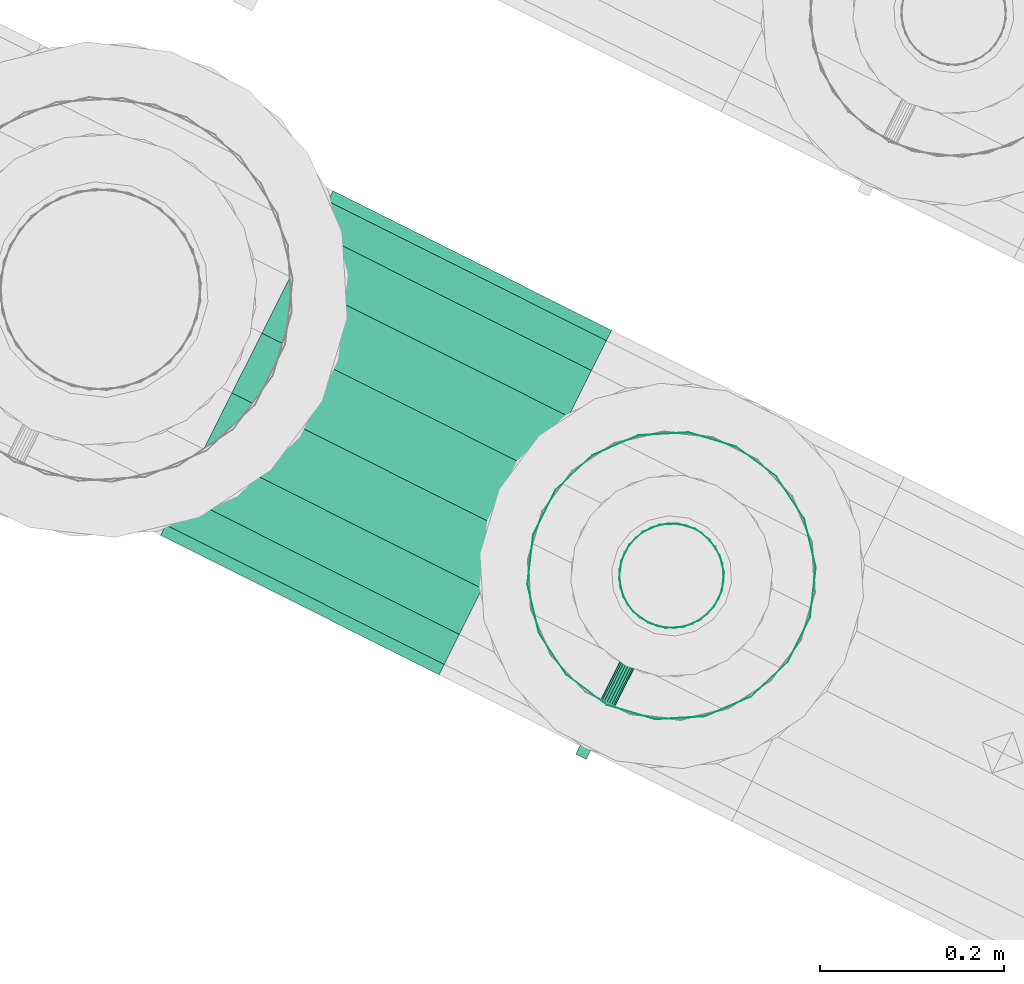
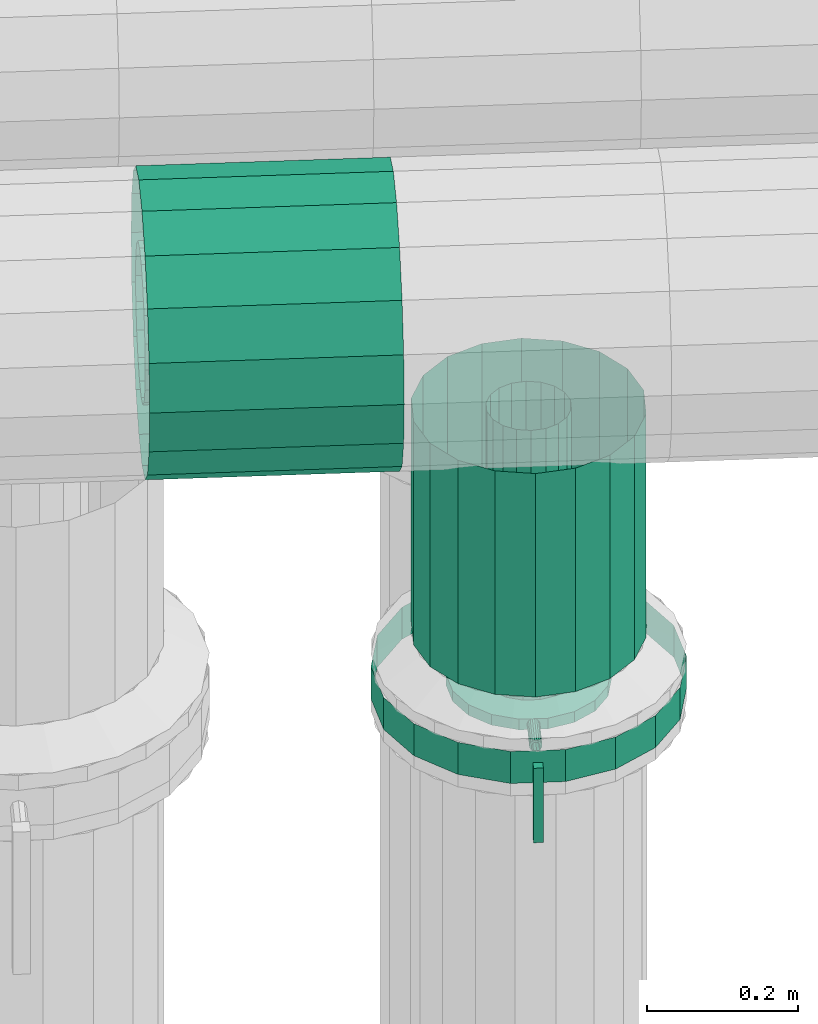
# One storey, part 121 of 152: 2 flow segments, 1 flow controller.
"""IFC2X3 building model written with IfcOpenShell, lengths in metres."""

from ifc_helpers import new_model, si_unit, derived_unit, direction, frame, origin, place, context, subcontext, project, spatial, face_set, surface_model, source, transform, mapped, material, type_object, type_shapes, element, save


model = new_model("IFC2X3")

# Units and contexts
model_context = context("Model", 3, precision=5.2338327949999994e-05, world=origin(), true_north=direction((0.0, 1.0)))
body_context = subcontext(model_context, "Body", "Model", "MODEL_VIEW")
ifc_project = project(units=[si_unit("LENGTHUNIT", "METRE"), si_unit("AREAUNIT", "SQUARE_METRE"), si_unit("VOLUMEUNIT", "CUBIC_METRE"), si_unit("MASSUNIT", "GRAM", prefix="KILO"), si_unit("PLANEANGLEUNIT", "RADIAN"), derived_unit("THERMALTRANSMITTANCEUNIT", [(si_unit("MASSUNIT", "GRAM", prefix="KILO"), 1), (si_unit("THERMODYNAMICTEMPERATUREUNIT", "KELVIN"), -1), (si_unit("TIMEUNIT", "SECOND"), -3)])], contexts=[model_context])

# Site, building, storey
site_placement = place(None, frame((0.0, 0.0, 0.0), z_axis=(0.0, 0.0, 1.0), x_axis=(0.8939966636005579, -0.4480736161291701, 0.0)))
site = spatial("IfcSite", under=ifc_project, at=site_placement, Name="Default", CompositionType="ELEMENT")
building_placement = place(site_placement, origin())
building = spatial("IfcBuilding", under=site, at=building_placement, CompositionType="ELEMENT")
storey_placement = place(building_placement, frame((0.0, 0.0, 2.7499999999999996)))
storey = spatial("IfcBuildingStorey", under=building, at=storey_placement, Name="1. Obergeschoss", CompositionType="ELEMENT", Elevation=2.7499999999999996)

# Flow segment
ifc_material = material(Name="IfcSurfaceStyle #9317")
distribution_element_type_1 = type_object("IfcDistributionElementType", Name="Stahlrohr nach DIN 2448 225771:Stahlrohr nach DIN 2448 225771", material=ifc_material)
shared_shape_1 = source(origin(), body_context, "Body", "SurfaceModel", [
    surface_model("IfcFaceBasedSurfaceModel", [(7.10461832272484, 7.217658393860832, 5.553028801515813), (7.10461832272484, 7.224265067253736, 5.59049710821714), (6.765814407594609, 7.224265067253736, 5.59049710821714), (6.765814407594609, 7.217658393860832, 5.553028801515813), (7.10461832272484, 7.243288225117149, 5.623446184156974), (6.765814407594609, 7.243288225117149, 5.623446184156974), (7.10461832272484, 7.272433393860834, 5.6479018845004), (6.765814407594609, 7.272433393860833, 5.647901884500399), (7.10461832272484, 7.30818523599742, 5.660914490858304), (6.765814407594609, 7.308185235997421, 5.660914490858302), (7.10461832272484, 7.346231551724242, 5.660914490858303), (6.765814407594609, 7.346231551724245, 5.660914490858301), (7.10461832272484, 7.381983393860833, 5.6479018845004), (6.765814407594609, 7.381983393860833, 5.6479018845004), (7.10461832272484, 7.411128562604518, 5.623446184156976), (6.765814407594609, 7.411128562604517, 5.623446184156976), (7.10461832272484, 7.430151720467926, 5.590497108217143), (6.765814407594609, 7.4301517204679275, 5.590497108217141), (7.10461832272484, 7.436758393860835, 5.553028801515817), (6.765814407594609, 7.436758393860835, 5.553028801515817), (7.10461832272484, 7.430151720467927, 5.51556049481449), (6.765814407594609, 7.430151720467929, 5.515560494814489), (7.10461832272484, 7.411128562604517, 5.482611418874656), (6.765814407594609, 7.411128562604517, 5.482611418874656), (7.10461832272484, 7.381983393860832, 5.458155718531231), (6.765814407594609, 7.381983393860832, 5.4581557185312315), (7.10461832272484, 7.3462315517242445, 5.4451431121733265), (6.765814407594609, 7.346231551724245, 5.4451431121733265), (7.10461832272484, 7.308185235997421, 5.445143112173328), (6.765814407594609, 7.3081852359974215, 5.445143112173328), (7.10461832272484, 7.272433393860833, 5.45815571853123), (6.765814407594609, 7.272433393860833, 5.45815571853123), (7.10461832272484, 7.243288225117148, 5.4826114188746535), (6.765814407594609, 7.2432882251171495, 5.482611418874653), (7.10461832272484, 7.224265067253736, 5.515560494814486), (6.765814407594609, 7.224265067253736, 5.515560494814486), (7.10461832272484, 7.117658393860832, 5.553028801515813), (7.10461832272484, 7.130295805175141, 5.624699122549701), (6.765814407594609, 7.130295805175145, 5.624699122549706), (6.765814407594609, 7.117658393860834, 5.553028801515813), (7.10461832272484, 7.166683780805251, 5.687724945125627), (6.765814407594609, 7.166683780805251, 5.687724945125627), (7.10461832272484, 7.222433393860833, 5.734504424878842), (6.765814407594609, 7.222433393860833, 5.734504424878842), (7.10461832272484, 7.290820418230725, 5.759395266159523), (6.765814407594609, 7.290820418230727, 5.7593952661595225), (7.10461832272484, 7.363596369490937, 5.759395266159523), (6.765814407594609, 7.363596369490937, 5.759395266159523), (7.10461832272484, 7.43198339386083, 5.734504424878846), (6.765814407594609, 7.431983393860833, 5.734504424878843), (7.10461832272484, 7.487733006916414, 5.687724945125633), (6.765814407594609, 7.487733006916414, 5.687724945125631), (7.10461832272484, 7.524120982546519, 5.62469912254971), (6.765814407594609, 7.5241209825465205, 5.6246991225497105), (7.10461832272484, 7.536758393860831, 5.553028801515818), (6.765814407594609, 7.5367583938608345, 5.553028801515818), (7.10461832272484, 7.5241209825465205, 5.481358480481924), (6.765814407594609, 7.5241209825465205, 5.481358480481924), (7.10461832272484, 7.487733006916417, 5.418332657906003), (6.765814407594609, 7.487733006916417, 5.418332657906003), (7.10461832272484, 7.431983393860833, 5.371553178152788), (6.765814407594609, 7.4319833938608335, 5.371553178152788), (7.10461832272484, 7.36359636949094, 5.3466623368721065), (6.765814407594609, 7.36359636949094, 5.3466623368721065), (7.10461832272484, 7.29082041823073, 5.346662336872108), (6.765814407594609, 7.290820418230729, 5.346662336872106), (7.10461832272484, 7.222433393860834, 5.371553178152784), (6.765814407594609, 7.222433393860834, 5.371553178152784), (7.10461832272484, 7.16668378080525, 5.4183326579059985), (6.765814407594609, 7.166683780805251, 5.418332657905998), (7.10461832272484, 7.130295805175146, 5.481358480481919), (6.765814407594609, 7.130295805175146, 5.481358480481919)], [face_set([[[0, 1, 2, 3]], [[1, 4, 5, 2]], [[4, 6, 7, 5]], [[6, 8, 9, 7]], [[8, 10, 11, 9]], [[10, 12, 13, 11]], [[12, 14, 15, 13]], [[14, 16, 17, 15]], [[16, 18, 19, 17]], [[18, 20, 21, 19]], [[20, 22, 23, 21]], [[22, 24, 25, 23]], [[24, 26, 27, 25]], [[26, 28, 29, 27]], [[28, 30, 31, 29]], [[30, 32, 33, 31]], [[32, 34, 35, 33]], [[34, 0, 3, 35]], [[36, 37, 38, 39]], [[37, 40, 41, 38]], [[40, 42, 43, 41]], [[42, 44, 45, 43]], [[44, 46, 47, 45]], [[46, 48, 49, 47]], [[48, 50, 51, 49]], [[50, 52, 53, 51]], [[52, 54, 55, 53]], [[54, 56, 57, 55]], [[56, 58, 59, 57]], [[58, 60, 61, 59]], [[60, 62, 63, 61]], [[62, 64, 65, 63]], [[64, 66, 67, 65]], [[66, 68, 69, 67]], [[68, 70, 71, 69]], [[70, 36, 39, 71]]])]),
])
type_shapes(distribution_element_type_1, [shared_shape_1])
flow_segment_1_placement = place(storey_placement, frame((0.0, 0.0, -2.7499999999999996)))
element("IfcFlowSegment", 1, at=flow_segment_1_placement, inside=storey, type_object=distribution_element_type_1, material=ifc_material, Name="Stahlrohr nach DIN 2448", ObjectType="Stahlrohr nach DIN 2448", context=body_context, shape_type="MappedRepresentation", body=[
    mapped(shared_shape_1, transform((0.0, 0.0, 0.0), scale=1.0)),
])

# Flow controller
distribution_element_type_2 = type_object("IfcDistributionElementType", Name="Zwischenflanschklappe 240629:Zwischenflanschklappe 240629", material=ifc_material)
shared_shape_2 = source(origin(), body_context, "Body", "SurfaceModel", [
    surface_model("IfcFaceBasedSurfaceModel", [(7.27606832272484, 7.1203083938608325, 4.842322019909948), (7.27606832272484, 7.1203083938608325, 4.963172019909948), (7.289168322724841, 7.1203083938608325, 4.963172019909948), (7.289168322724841, 7.1203083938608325, 4.842322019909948), (7.289168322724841, 7.107208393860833, 4.963172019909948), (7.289168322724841, 7.107208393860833, 4.842322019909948), (7.27606832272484, 7.107208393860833, 4.963172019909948), (7.27606832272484, 7.107208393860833, 4.842322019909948), (7.34811832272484, 7.3272083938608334, 4.930622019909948), (7.344168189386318, 7.349610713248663, 4.930622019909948), (7.344168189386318, 7.349610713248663, 4.947955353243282), (7.34811832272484, 7.3272083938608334, 4.947955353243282), (7.332794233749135, 7.369310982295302, 4.930622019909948), (7.332794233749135, 7.369310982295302, 4.947955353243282), (7.31536832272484, 7.383933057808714, 4.930622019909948), (7.31536832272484, 7.383933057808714, 4.947955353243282), (7.293992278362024, 7.391713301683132, 4.930622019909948), (7.293992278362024, 7.391713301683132, 4.947955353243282), (7.2712443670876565, 7.391713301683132, 4.930622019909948), (7.2712443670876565, 7.391713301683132, 4.947955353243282), (7.249868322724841, 7.383933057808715, 4.930622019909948), (7.249868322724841, 7.383933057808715, 4.947955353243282), (7.232442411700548, 7.369310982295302, 4.930622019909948), (7.232442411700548, 7.369310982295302, 4.947955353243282), (7.221068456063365, 7.349610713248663, 4.930622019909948), (7.221068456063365, 7.349610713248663, 4.947955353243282), (7.217118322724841, 7.3272083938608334, 4.930622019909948), (7.217118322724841, 7.3272083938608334, 4.947955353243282), (7.221068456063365, 7.304806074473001, 4.930622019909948), (7.221068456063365, 7.304806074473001, 4.947955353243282), (7.232442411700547, 7.285105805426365, 4.930622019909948), (7.232442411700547, 7.285105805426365, 4.947955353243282), (7.249868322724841, 7.270483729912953, 4.930622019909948), (7.249868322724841, 7.270483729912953, 4.947955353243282), (7.2712443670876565, 7.262703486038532, 4.930622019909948), (7.2712443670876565, 7.262703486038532, 4.947955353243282), (7.293992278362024, 7.262703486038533, 4.930622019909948), (7.293992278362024, 7.262703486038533, 4.947955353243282), (7.31536832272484, 7.270483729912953, 4.930622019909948), (7.31536832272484, 7.270483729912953, 4.947955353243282), (7.3327942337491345, 7.285105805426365, 4.930622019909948), (7.3327942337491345, 7.285105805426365, 4.947955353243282), (7.344168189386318, 7.304806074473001, 4.930622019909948), (7.344168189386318, 7.304806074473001, 4.947955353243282), (7.28261832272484, 7.3272083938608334, 4.930622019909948), (7.28261832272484, 7.3272083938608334, 4.947955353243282), (7.392618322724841, 7.3272083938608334, 4.947955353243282), (7.385984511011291, 7.364830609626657, 4.947955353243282), (7.385984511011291, 7.364830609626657, 4.965288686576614), (7.392618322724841, 7.3272083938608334, 4.965288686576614), (7.366883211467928, 7.397915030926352, 4.947955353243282), (7.366883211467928, 7.397915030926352, 4.965288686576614), (7.337618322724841, 7.422471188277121, 4.947955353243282), (7.337618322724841, 7.422471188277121, 4.965288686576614), (7.301719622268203, 7.435537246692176, 4.947955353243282), (7.301719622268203, 7.435537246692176, 4.965288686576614), (7.263517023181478, 7.435537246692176, 4.947955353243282), (7.263517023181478, 7.435537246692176, 4.965288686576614), (7.22761832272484, 7.42247118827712, 4.947955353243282), (7.22761832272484, 7.42247118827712, 4.965288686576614), (7.198353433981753, 7.397915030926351, 4.947955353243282), (7.198353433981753, 7.397915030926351, 4.965288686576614), (7.17925213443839, 7.364830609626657, 4.947955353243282), (7.17925213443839, 7.364830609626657, 4.965288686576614), (7.1726183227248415, 7.3272083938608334, 4.947955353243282), (7.1726183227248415, 7.3272083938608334, 4.965288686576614), (7.17925213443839, 7.289586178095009, 4.947955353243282), (7.17925213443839, 7.289586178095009, 4.965288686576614), (7.198353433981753, 7.256501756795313, 4.947955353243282), (7.198353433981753, 7.256501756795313, 4.965288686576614), (7.22761832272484, 7.231945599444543, 4.947955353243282), (7.22761832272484, 7.231945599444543, 4.965288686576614), (7.263517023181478, 7.21887954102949, 4.947955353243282), (7.263517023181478, 7.21887954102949, 4.965288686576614), (7.301719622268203, 7.21887954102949, 4.947955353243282), (7.301719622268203, 7.21887954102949, 4.965288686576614), (7.337618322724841, 7.231945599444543, 4.947955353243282), (7.337618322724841, 7.231945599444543, 4.965288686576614), (7.366883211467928, 7.256501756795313, 4.947955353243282), (7.366883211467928, 7.256501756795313, 4.965288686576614), (7.385984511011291, 7.289586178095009, 4.947955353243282), (7.385984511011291, 7.289586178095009, 4.965288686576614), (7.28261832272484, 7.3272083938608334, 4.9652886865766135), (7.34811832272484, 7.3272083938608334, 4.965288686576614), (7.344168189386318, 7.349610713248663, 4.965288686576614), (7.344168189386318, 7.349610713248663, 4.9826220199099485), (7.34811832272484, 7.3272083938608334, 4.9826220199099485), (7.332794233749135, 7.369310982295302, 4.965288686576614), (7.332794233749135, 7.369310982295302, 4.9826220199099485), (7.31536832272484, 7.383933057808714, 4.965288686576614), (7.31536832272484, 7.383933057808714, 4.9826220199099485), (7.293992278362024, 7.391713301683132, 4.965288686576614), (7.293992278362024, 7.391713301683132, 4.9826220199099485), (7.2712443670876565, 7.391713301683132, 4.965288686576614), (7.2712443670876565, 7.391713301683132, 4.9826220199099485), (7.249868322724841, 7.383933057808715, 4.965288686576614), (7.249868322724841, 7.383933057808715, 4.9826220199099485), (7.232442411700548, 7.369310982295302, 4.965288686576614), (7.232442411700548, 7.369310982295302, 4.9826220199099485), (7.221068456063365, 7.349610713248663, 4.965288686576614), (7.221068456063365, 7.349610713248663, 4.9826220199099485), (7.217118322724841, 7.3272083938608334, 4.965288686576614), (7.217118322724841, 7.3272083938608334, 4.9826220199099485), (7.221068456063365, 7.304806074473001, 4.965288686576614), (7.221068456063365, 7.304806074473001, 4.9826220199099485), (7.232442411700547, 7.285105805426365, 4.965288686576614), (7.232442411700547, 7.285105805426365, 4.9826220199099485), (7.249868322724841, 7.270483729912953, 4.965288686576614), (7.249868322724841, 7.270483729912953, 4.9826220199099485), (7.2712443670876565, 7.262703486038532, 4.965288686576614), (7.2712443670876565, 7.262703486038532, 4.9826220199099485), (7.293992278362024, 7.262703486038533, 4.965288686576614), (7.293992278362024, 7.262703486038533, 4.9826220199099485), (7.31536832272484, 7.270483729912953, 4.965288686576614), (7.31536832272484, 7.270483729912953, 4.9826220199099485), (7.3327942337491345, 7.285105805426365, 4.965288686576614), (7.3327942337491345, 7.285105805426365, 4.9826220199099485), (7.344168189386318, 7.304806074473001, 4.965288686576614), (7.344168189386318, 7.304806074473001, 4.9826220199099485), (7.28261832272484, 7.3272083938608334, 4.982622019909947), (7.291284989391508, 7.3272083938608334, 4.956622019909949), (7.290762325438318, 7.3272083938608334, 4.959586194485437), (7.290762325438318, 7.168758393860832, 4.959586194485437), (7.291284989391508, 7.168758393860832, 4.956622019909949), (7.289257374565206, 7.3272083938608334, 4.9621928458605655), (7.289257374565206, 7.168758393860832, 4.9621928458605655), (7.286951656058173, 7.3272083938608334, 4.964127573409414), (7.286951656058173, 7.168758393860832, 4.964127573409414), (7.284123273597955, 7.3272083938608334, 4.965157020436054), (7.284123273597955, 7.168758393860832, 4.965157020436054), (7.281113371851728, 7.3272083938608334, 4.965157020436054), (7.281113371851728, 7.168758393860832, 4.965157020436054), (7.278284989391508, 7.3272083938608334, 4.964127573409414), (7.278284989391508, 7.168758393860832, 4.964127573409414), (7.275979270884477, 7.3272083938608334, 4.9621928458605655), (7.275979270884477, 7.168758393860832, 4.9621928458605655), (7.274474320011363, 7.3272083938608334, 4.959586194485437), (7.274474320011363, 7.168758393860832, 4.959586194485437), (7.273951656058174, 7.3272083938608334, 4.956622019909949), (7.273951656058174, 7.168758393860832, 4.956622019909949), (7.274474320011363, 7.3272083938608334, 4.953657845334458), (7.274474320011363, 7.168758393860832, 4.953657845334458), (7.275979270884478, 7.3272083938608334, 4.951051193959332), (7.275979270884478, 7.168758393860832, 4.951051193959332), (7.278284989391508, 7.3272083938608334, 4.949116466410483), (7.278284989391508, 7.168758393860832, 4.949116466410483), (7.281113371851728, 7.3272083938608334, 4.948087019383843), (7.281113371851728, 7.168758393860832, 4.948087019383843), (7.284123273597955, 7.3272083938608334, 4.948087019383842), (7.284123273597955, 7.168758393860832, 4.948087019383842), (7.286951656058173, 7.3272083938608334, 4.949116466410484), (7.286951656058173, 7.168758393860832, 4.949116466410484), (7.289257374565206, 7.3272083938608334, 4.951051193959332), (7.289257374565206, 7.168758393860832, 4.951051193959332), (7.290762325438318, 7.3272083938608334, 4.953657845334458), (7.290762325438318, 7.168758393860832, 4.953657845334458), (7.28261832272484, 7.3272083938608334, 4.956622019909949), (7.28261832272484, 7.1687583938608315, 4.956622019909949), (7.28833332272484, 7.168758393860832, 4.956622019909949), (7.2866594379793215, 7.168758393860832, 4.960663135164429), (7.2866594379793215, 7.1203083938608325, 4.960663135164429), (7.28833332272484, 7.1203083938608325, 4.956622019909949), (7.28261832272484, 7.168758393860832, 4.962337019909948), (7.28261832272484, 7.1203083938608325, 4.962337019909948), (7.278577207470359, 7.168758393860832, 4.960663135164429), (7.278577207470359, 7.1203083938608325, 4.960663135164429), (7.2769033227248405, 7.168758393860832, 4.956622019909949), (7.2769033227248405, 7.1203083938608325, 4.956622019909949), (7.2785772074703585, 7.168758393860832, 4.952580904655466), (7.2785772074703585, 7.1203083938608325, 4.952580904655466), (7.28261832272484, 7.168758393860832, 4.950907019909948), (7.28261832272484, 7.1203083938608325, 4.950907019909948), (7.2866594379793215, 7.168758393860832, 4.952580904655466), (7.2866594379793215, 7.1203083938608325, 4.952580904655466), (7.28261832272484, 7.1203083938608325, 4.956622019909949), (7.492618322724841, 7.3272083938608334, 4.930622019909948), (7.479953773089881, 7.399032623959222, 4.930622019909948), (7.479953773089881, 7.399032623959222, 4.9826220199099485), (7.492618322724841, 7.3272083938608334, 4.9826220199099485), (7.443487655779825, 7.4621937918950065, 4.930622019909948), (7.443487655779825, 7.4621937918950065, 4.9826220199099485), (7.387618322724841, 7.509073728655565, 4.930622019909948), (7.387618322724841, 7.509073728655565, 4.9826220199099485), (7.319084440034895, 7.534018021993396, 4.930622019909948), (7.319084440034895, 7.534018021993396, 4.9826220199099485), (7.246152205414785, 7.534018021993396, 4.930622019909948), (7.246152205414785, 7.534018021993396, 4.9826220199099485), (7.177618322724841, 7.509073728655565, 4.930622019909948), (7.177618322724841, 7.509073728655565, 4.9826220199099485), (7.121748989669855, 7.4621937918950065, 4.930622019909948), (7.121748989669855, 7.4621937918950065, 4.9826220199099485), (7.085282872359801, 7.399032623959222, 4.930622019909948), (7.085282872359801, 7.399032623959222, 4.9826220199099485), (7.07261832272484, 7.3272083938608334, 4.930622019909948), (7.07261832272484, 7.3272083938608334, 4.9826220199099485), (7.0852828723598, 7.255384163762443, 4.930622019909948), (7.0852828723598, 7.255384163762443, 4.9826220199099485), (7.121748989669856, 7.1922229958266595, 4.930622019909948), (7.121748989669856, 7.1922229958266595, 4.9826220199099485), (7.177618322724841, 7.1453430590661, 4.930622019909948), (7.177618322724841, 7.1453430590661, 4.9826220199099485), (7.246152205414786, 7.12039876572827, 4.930622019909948), (7.246152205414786, 7.12039876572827, 4.9826220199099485), (7.319084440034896, 7.12039876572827, 4.930622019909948), (7.319084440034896, 7.12039876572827, 4.9826220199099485), (7.387618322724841, 7.1453430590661, 4.930622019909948), (7.387618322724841, 7.1453430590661, 4.9826220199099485), (7.443487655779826, 7.1922229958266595, 4.930622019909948), (7.443487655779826, 7.1922229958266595, 4.9826220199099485), (7.479953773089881, 7.255384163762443, 4.930622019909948), (7.479953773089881, 7.255384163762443, 4.9826220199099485)], [face_set([[[0, 1, 2, 3]], [[3, 2, 4, 5]], [[5, 4, 6, 7]], [[7, 6, 1, 0]], [[0, 3, 5, 7]], [[6, 4, 2, 1]], [[8, 9, 10, 11]], [[9, 12, 13, 10]], [[12, 14, 15, 13]], [[14, 16, 17, 15]], [[16, 18, 19, 17]], [[18, 20, 21, 19]], [[20, 22, 23, 21]], [[22, 24, 25, 23]], [[24, 26, 27, 25]], [[26, 28, 29, 27]], [[28, 30, 31, 29]], [[30, 32, 33, 31]], [[32, 34, 35, 33]], [[34, 36, 37, 35]], [[36, 38, 39, 37]], [[38, 40, 41, 39]], [[40, 42, 43, 41]], [[42, 8, 11, 43]], [[44, 9, 8]], [[44, 12, 9]], [[44, 14, 12]], [[44, 16, 14]], [[44, 18, 16]], [[44, 20, 18]], [[44, 22, 20]], [[44, 24, 22]], [[44, 26, 24]], [[44, 28, 26]], [[44, 30, 28]], [[44, 32, 30]], [[44, 34, 32]], [[44, 36, 34]], [[44, 38, 36]], [[44, 40, 38]], [[44, 42, 40]], [[44, 8, 42]], [[45, 43, 11]], [[45, 41, 43]], [[45, 39, 41]], [[45, 37, 39]], [[45, 35, 37]], [[45, 33, 35]], [[45, 31, 33]], [[45, 29, 31]], [[45, 27, 29]], [[45, 25, 27]], [[45, 23, 25]], [[45, 21, 23]], [[45, 19, 21]], [[45, 17, 19]], [[45, 15, 17]], [[45, 13, 15]], [[45, 10, 13]], [[45, 11, 10]], [[46, 47, 48, 49]], [[47, 50, 51, 48]], [[50, 52, 53, 51]], [[52, 54, 55, 53]], [[54, 56, 57, 55]], [[56, 58, 59, 57]], [[58, 60, 61, 59]], [[60, 62, 63, 61]], [[62, 64, 65, 63]], [[64, 66, 67, 65]], [[66, 68, 69, 67]], [[68, 70, 71, 69]], [[70, 72, 73, 71]], [[72, 74, 75, 73]], [[74, 76, 77, 75]], [[76, 78, 79, 77]], [[78, 80, 81, 79]], [[80, 46, 49, 81]], [[45, 47, 46]], [[45, 50, 47]], [[45, 52, 50]], [[45, 54, 52]], [[45, 56, 54]], [[45, 58, 56]], [[45, 60, 58]], [[45, 62, 60]], [[45, 64, 62]], [[45, 66, 64]], [[45, 68, 66]], [[45, 70, 68]], [[45, 72, 70]], [[45, 74, 72]], [[45, 76, 74]], [[45, 78, 76]], [[45, 80, 78]], [[45, 46, 80]], [[82, 81, 49]], [[82, 79, 81]], [[82, 77, 79]], [[82, 75, 77]], [[82, 73, 75]], [[82, 71, 73]], [[82, 69, 71]], [[82, 67, 69]], [[82, 65, 67]], [[82, 63, 65]], [[82, 61, 63]], [[82, 59, 61]], [[82, 57, 59]], [[82, 55, 57]], [[82, 53, 55]], [[82, 51, 53]], [[82, 48, 51]], [[82, 49, 48]], [[83, 84, 85, 86]], [[84, 87, 88, 85]], [[87, 89, 90, 88]], [[89, 91, 92, 90]], [[91, 93, 94, 92]], [[93, 95, 96, 94]], [[95, 97, 98, 96]], [[97, 99, 100, 98]], [[99, 101, 102, 100]], [[101, 103, 104, 102]], [[103, 105, 106, 104]], [[105, 107, 108, 106]], [[107, 109, 110, 108]], [[109, 111, 112, 110]], [[111, 113, 114, 112]], [[113, 115, 116, 114]], [[115, 117, 118, 116]], [[117, 83, 86, 118]], [[82, 84, 83]], [[82, 87, 84]], [[82, 89, 87]], [[82, 91, 89]], [[82, 93, 91]], [[82, 95, 93]], [[82, 97, 95]], [[82, 99, 97]], [[82, 101, 99]], [[82, 103, 101]], [[82, 105, 103]], [[82, 107, 105]], [[82, 109, 107]], [[82, 111, 109]], [[82, 113, 111]], [[82, 115, 113]], [[82, 117, 115]], [[82, 83, 117]], [[119, 118, 86]], [[119, 116, 118]], [[119, 114, 116]], [[119, 112, 114]], [[119, 110, 112]], [[119, 108, 110]], [[119, 106, 108]], [[119, 104, 106]], [[119, 102, 104]], [[119, 100, 102]], [[119, 98, 100]], [[119, 96, 98]], [[119, 94, 96]], [[119, 92, 94]], [[119, 90, 92]], [[119, 88, 90]], [[119, 85, 88]], [[119, 86, 85]], [[120, 121, 122, 123]], [[121, 124, 125, 122]], [[124, 126, 127, 125]], [[126, 128, 129, 127]], [[128, 130, 131, 129]], [[130, 132, 133, 131]], [[132, 134, 135, 133]], [[134, 136, 137, 135]], [[136, 138, 139, 137]], [[138, 140, 141, 139]], [[140, 142, 143, 141]], [[142, 144, 145, 143]], [[144, 146, 147, 145]], [[146, 148, 149, 147]], [[148, 150, 151, 149]], [[150, 152, 153, 151]], [[152, 154, 155, 153]], [[154, 120, 123, 155]], [[156, 121, 120]], [[156, 124, 121]], [[156, 126, 124]], [[156, 128, 126]], [[156, 130, 128]], [[156, 132, 130]], [[156, 134, 132]], [[156, 136, 134]], [[156, 138, 136]], [[156, 140, 138]], [[156, 142, 140]], [[156, 144, 142]], [[156, 146, 144]], [[156, 148, 146]], [[156, 150, 148]], [[156, 152, 150]], [[156, 154, 152]], [[156, 120, 154]], [[157, 155, 123]], [[157, 153, 155]], [[157, 151, 153]], [[157, 149, 151]], [[157, 147, 149]], [[157, 145, 147]], [[157, 143, 145]], [[157, 141, 143]], [[157, 139, 141]], [[157, 137, 139]], [[157, 135, 137]], [[157, 133, 135]], [[157, 131, 133]], [[157, 129, 131]], [[157, 127, 129]], [[157, 125, 127]], [[157, 122, 125]], [[157, 123, 122]], [[158, 159, 160, 161]], [[159, 162, 163, 160]], [[162, 164, 165, 163]], [[164, 166, 167, 165]], [[166, 168, 169, 167]], [[168, 170, 171, 169]], [[170, 172, 173, 171]], [[172, 158, 161, 173]], [[174, 173, 161]], [[174, 171, 173]], [[174, 169, 171]], [[174, 167, 169]], [[174, 165, 167]], [[174, 163, 165]], [[174, 160, 163]], [[174, 161, 160]], [[175, 176, 177, 178]], [[176, 179, 180, 177]], [[179, 181, 182, 180]], [[181, 183, 184, 182]], [[183, 185, 186, 184]], [[185, 187, 188, 186]], [[187, 189, 190, 188]], [[189, 191, 192, 190]], [[191, 193, 194, 192]], [[193, 195, 196, 194]], [[195, 197, 198, 196]], [[197, 199, 200, 198]], [[199, 201, 202, 200]], [[201, 203, 204, 202]], [[203, 205, 206, 204]], [[205, 207, 208, 206]], [[207, 209, 210, 208]], [[209, 175, 178, 210]]])]),
])
type_shapes(distribution_element_type_2, [shared_shape_2])
flow_controller_placement = place(storey_placement, frame((0.0, 0.0, -2.7499999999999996)))
element("IfcFlowController", 2, at=flow_controller_placement, inside=storey, type_object=distribution_element_type_2, material=ifc_material, Name="Zwischenflanschklappe", ObjectType="Zwischenflanschklappe", context=body_context, shape_type="MappedRepresentation", body=[
    mapped(shared_shape_2, transform((0.0, 0.0, 0.0), scale=1.0)),
])

# Flow segment
distribution_element_type_3 = type_object("IfcDistributionElementType", Name="Stahlrohr nach DIN 2448 242357:Stahlrohr nach DIN 2448 242357", material=ifc_material)
shared_shape_3 = source(origin(), body_context, "Body", "SurfaceModel", [
    surface_model("IfcFaceBasedSurfaceModel", [(7.282618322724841, 7.270058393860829, 5.397028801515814), (7.263071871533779, 7.273504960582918, 5.397028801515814), (7.263071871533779, 7.273504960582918, 5.034622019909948), (7.28261832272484, 7.270058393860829, 5.034622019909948), (7.245883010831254, 7.283428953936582, 5.397028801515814), (7.245883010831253, 7.283428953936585, 5.034622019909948), (7.233124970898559, 7.298633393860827, 5.397028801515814), (7.233124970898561, 7.2986333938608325, 5.034622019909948), (7.226336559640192, 7.3172844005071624, 5.397028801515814), (7.226336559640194, 7.3172844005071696, 5.034622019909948), (7.22633655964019, 7.337132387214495, 5.397028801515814), (7.2263365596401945, 7.337132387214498, 5.034622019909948), (7.233124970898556, 7.3557833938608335, 5.397028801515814), (7.233124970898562, 7.3557833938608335, 5.034622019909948), (7.245883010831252, 7.3709878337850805, 5.397028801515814), (7.245883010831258, 7.370987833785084, 5.034622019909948), (7.263071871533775, 7.380911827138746, 5.397028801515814), (7.263071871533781, 7.380911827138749, 5.034622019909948), (7.282618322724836, 7.38435839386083, 5.397028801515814), (7.282618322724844, 7.38435839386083, 5.034622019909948), (7.302164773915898, 7.380911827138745, 5.397028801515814), (7.302164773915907, 7.380911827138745, 5.034622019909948), (7.319353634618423, 7.370987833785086, 5.397028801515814), (7.319353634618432, 7.370987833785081, 5.034622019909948), (7.33211167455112, 7.355783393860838, 5.397028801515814), (7.332111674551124, 7.35578339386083, 5.034622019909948), (7.338900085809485, 7.337132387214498, 5.397028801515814), (7.338900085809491, 7.337132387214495, 5.034622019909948), (7.338900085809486, 7.317284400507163, 5.397028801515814), (7.338900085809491, 7.317284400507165, 5.034622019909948), (7.332111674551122, 7.2986333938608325, 5.397028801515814), (7.332111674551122, 7.29863339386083, 5.034622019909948), (7.319353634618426, 7.283428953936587, 5.397028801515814), (7.319353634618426, 7.283428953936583, 5.034622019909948), (7.302164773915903, 7.273504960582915, 5.397028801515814), (7.302164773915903, 7.273504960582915, 5.034622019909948), (7.282618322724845, 7.170058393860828, 5.397028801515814), (7.228869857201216, 7.179535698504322, 5.397028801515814), (7.228869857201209, 7.1795356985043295, 5.034622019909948), (7.2826183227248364, 7.170058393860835, 5.034622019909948), (7.181604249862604, 7.20682450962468, 5.397028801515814), (7.181604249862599, 7.206824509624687, 5.034622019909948), (7.146522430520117, 7.248633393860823, 5.397028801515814), (7.146522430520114, 7.248633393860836, 5.034622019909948), (7.127855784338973, 7.2999195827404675, 5.397028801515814), (7.127855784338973, 7.29991958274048, 5.034622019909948), (7.127855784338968, 7.354497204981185, 5.397028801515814), (7.127855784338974, 7.354497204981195, 5.034622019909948), (7.14652243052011, 7.405783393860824, 5.397028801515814), (7.146522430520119, 7.405783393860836, 5.034622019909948), (7.181604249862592, 7.447592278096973, 5.397028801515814), (7.1816042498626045, 7.447592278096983, 5.034622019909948), (7.228869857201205, 7.474881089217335, 5.397028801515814), (7.228869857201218, 7.47488108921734, 5.034622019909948), (7.282618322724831, 7.48435839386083, 5.397028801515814), (7.282618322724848, 7.484358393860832, 5.034622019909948), (7.336366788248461, 7.474881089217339, 5.397028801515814), (7.336366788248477, 7.474881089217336, 5.034622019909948), (7.383632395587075, 7.4475922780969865, 5.397028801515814), (7.383632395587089, 7.447592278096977, 5.034622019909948), (7.418714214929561, 7.40578339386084, 5.397028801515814), (7.418714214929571, 7.40578339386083, 5.034622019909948), (7.437380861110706, 7.3544972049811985, 5.397028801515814), (7.437380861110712, 7.354497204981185, 5.034622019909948), (7.43738086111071, 7.299919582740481, 5.397028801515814), (7.437380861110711, 7.2999195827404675, 5.034622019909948), (7.418714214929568, 7.248633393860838, 5.397028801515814), (7.418714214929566, 7.248633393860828, 5.034622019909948), (7.383632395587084, 7.206824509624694, 5.397028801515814), (7.383632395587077, 7.206824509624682, 5.034622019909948), (7.336366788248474, 7.179535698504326, 5.397028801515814), (7.3363667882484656, 7.179535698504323, 5.034622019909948)], [face_set([[[0, 1, 2, 3]], [[1, 4, 5, 2]], [[4, 6, 7, 5]], [[6, 8, 9, 7]], [[8, 10, 11, 9]], [[10, 12, 13, 11]], [[12, 14, 15, 13]], [[14, 16, 17, 15]], [[16, 18, 19, 17]], [[18, 20, 21, 19]], [[20, 22, 23, 21]], [[22, 24, 25, 23]], [[24, 26, 27, 25]], [[26, 28, 29, 27]], [[28, 30, 31, 29]], [[30, 32, 33, 31]], [[32, 34, 35, 33]], [[34, 0, 3, 35]], [[36, 37, 38, 39]], [[37, 40, 41, 38]], [[40, 42, 43, 41]], [[42, 44, 45, 43]], [[44, 46, 47, 45]], [[46, 48, 49, 47]], [[48, 50, 51, 49]], [[50, 52, 53, 51]], [[52, 54, 55, 53]], [[54, 56, 57, 55]], [[56, 58, 59, 57]], [[58, 60, 61, 59]], [[60, 62, 63, 61]], [[62, 64, 65, 63]], [[64, 66, 67, 65]], [[66, 68, 69, 67]], [[68, 70, 71, 69]], [[70, 36, 39, 71]]])]),
])
type_shapes(distribution_element_type_3, [shared_shape_3])
flow_segment_2_placement = place(storey_placement, frame((0.0, 0.0, -2.7499999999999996)))
element("IfcFlowSegment", 3, at=flow_segment_2_placement, inside=storey, type_object=distribution_element_type_3, material=ifc_material, Name="Stahlrohr nach DIN 2448", ObjectType="Stahlrohr nach DIN 2448", context=body_context, shape_type="MappedRepresentation", body=[
    mapped(shared_shape_3, transform((0.0, 0.0, 0.0), scale=1.0)),
])

save(model, "model.ifc")
